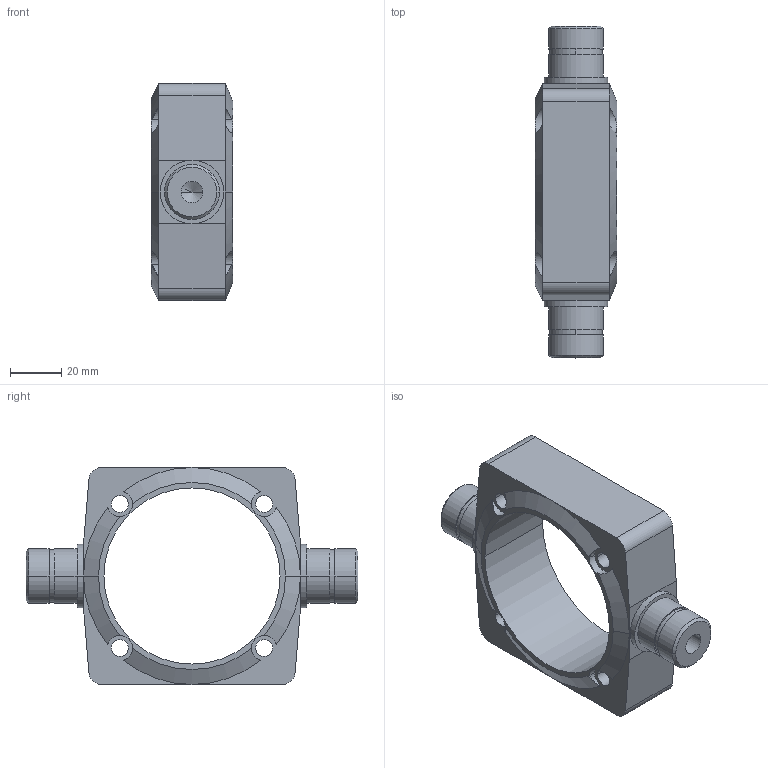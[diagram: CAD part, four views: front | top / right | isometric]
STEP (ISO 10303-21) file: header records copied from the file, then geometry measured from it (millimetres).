
FILE_DESCRIPTION(('CATIA V5 STEP Exchange'),'2;1');
FILE_NAME('C:\Users\Sohrabi\Desktop\PNC-H\H-PNC-63.stp','2018-03-10T07:24:20+00:00',('none'),('none'),'CATIA Version 5-6 Release 2016','CATIA V5 STEP AP203','none');
FILE_SCHEMA(('CONFIG_CONTROL_DESIGN'));
Length unit declared in the file: millimetre
Products named in the file (1): H-PNC-63
Bounding box: 32 x 130 x 85 mm (x, y, z)
Volume: 103344.6 mm3; surface area: 28565.8 mm2
Topology: 1 solids, 1 shells, 120 faces, 314 edges, 198 vertices
Faces by surface type: cylinder 64, plane 28, cone 28
Entity records: 3565 total; most frequent: CARTESIAN_POINT 906, ORIENTED_EDGE 620, DIRECTION 388, EDGE_CURVE 310, AXIS2_PLACEMENT_3D 224, VERTEX_POINT 196, CIRCLE 166, EDGE_LOOP 138
